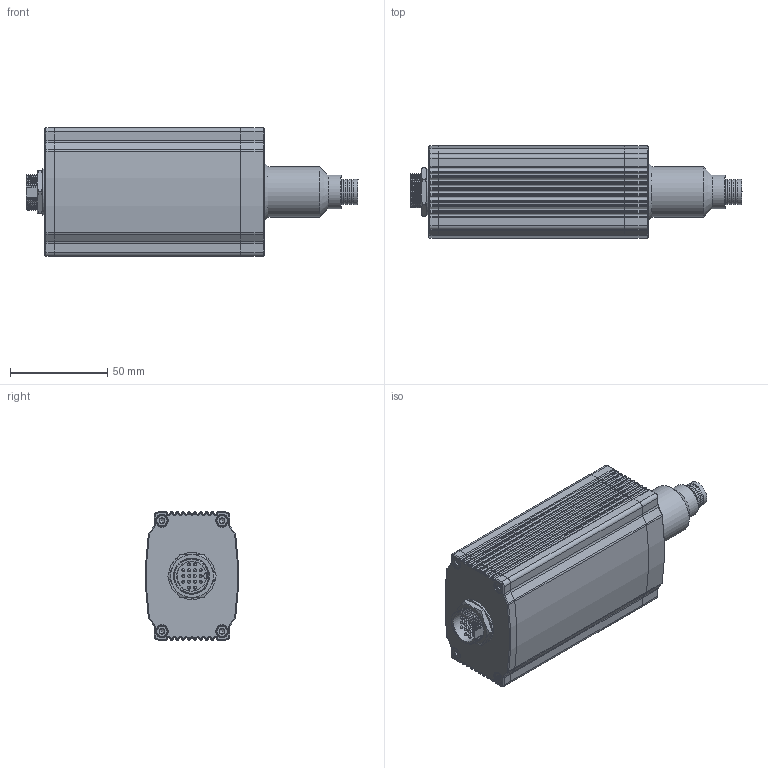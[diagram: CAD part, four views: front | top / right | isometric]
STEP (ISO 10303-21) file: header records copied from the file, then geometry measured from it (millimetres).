
FILE_DESCRIPTION(/* description */ (''),/* implementation_level */ '2;1');
FILE_NAME(/* name */ 'FI1010DC-HE-01 (5.0).stp',/* time_stamp */ '2023-09-21T17:45:17+08:00',/* author */ (''),/* organization */ (''),/* preprocessor_version */ 'ST-DEVELOPER v16.7',/* originating_system */ 'SIEMENS PLM Software NX 12.0',/* authorisation */ '');
FILE_SCHEMA (('AUTOMOTIVE_DESIGN { 1 0 10303 214 3 1 1 1 }'));
Length unit declared in the file: millimetre
Products named in the file (1): Admi71E0876Fbr1s
Bounding box: 171.12 x 47.68 x 66 mm (x, y, z)
Volume: 218653.1 mm3; surface area: 93236.5 mm2
Topology: 22 solids, 22 shells, 1051 faces, 2631 edges, 1599 vertices
Faces by surface type: cylinder 401, plane 358, cone 223, bspline 32, torus 21, sphere 16
Full cylindrical faces by diameter (mm): 1.5 x16, 3 x8, 3.3 x2, 3.5 x8, 3.838 x2, 4.2 x2, 5 x1, 5.86 x8, 6 x8, 7 x2, 8 x2, 9 x2, 9.1 x2, 10.2 x1, 10.5 x1, 12 x6, 13 x4, 15 x1, 15.4 x1, 15.5 x2, 16 x1, 16.2 x1, 17.5 x1, 18 x2, 19 x1, 21.4 x1, 22.6 x1, 24 x1, 24.2 x1, 26 x1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
Entity records: 63850 total; most frequent: CARTESIAN_POINT 40252, DIRECTION 4959, ORIENTED_EDGE 4558, EDGE_CURVE 2279, AXIS2_PLACEMENT_3D 1944, VERTEX_POINT 1504, EDGE_LOOP 1307, LINE 1071
